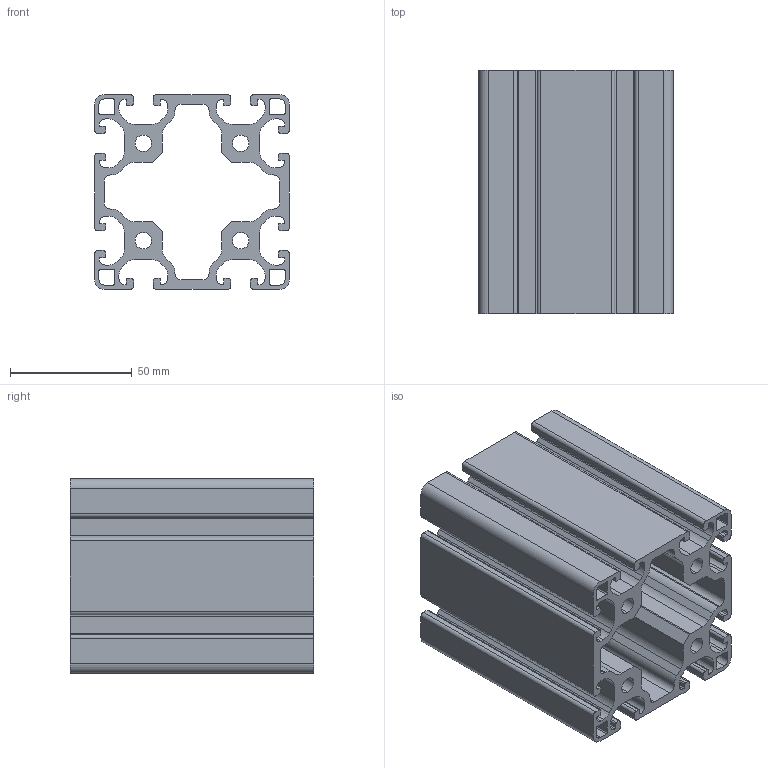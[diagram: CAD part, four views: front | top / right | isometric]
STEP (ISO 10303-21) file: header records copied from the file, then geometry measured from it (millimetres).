
FILE_DESCRIPTION (( 'STEP AP203' ), '1' );
FILE_NAME ('0108P8080L.STEP', '2024-02-29T12:11:15', ( 'Windows-Benutzer' ), ( '' ), 'SwSTEP 2.0', 'SolidWorks 2023', '' );
FILE_SCHEMA (( 'CONFIG_CONTROL_DESIGN' ));
Length unit declared in the file: millimetre
Products named in the file (1): 0108P8080L
Bounding box: 80 x 100 x 80 mm (x, y, z)
Volume: 199381.8 mm3; surface area: 115612.3 mm2
Topology: 1 solids, 1 shells, 338 faces, 1008 edges, 672 vertices
Faces by surface type: cylinder 172, plane 166
Entity records: 11569 total; most frequent: DIRECTION 2030, CARTESIAN_POINT 2019, ORIENTED_EDGE 2016, EDGE_CURVE 1008, AXIS2_PLACEMENT_3D 683, VERTEX_POINT 672, LINE 664, VECTOR 664
